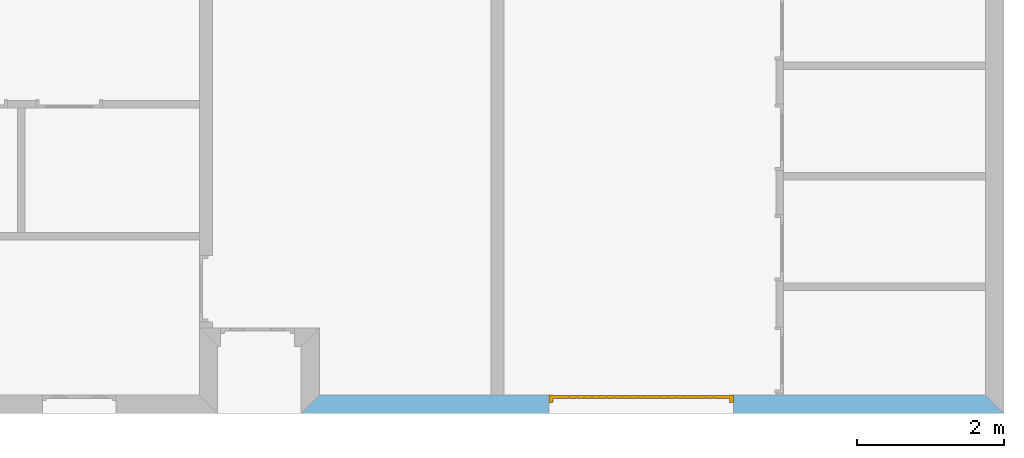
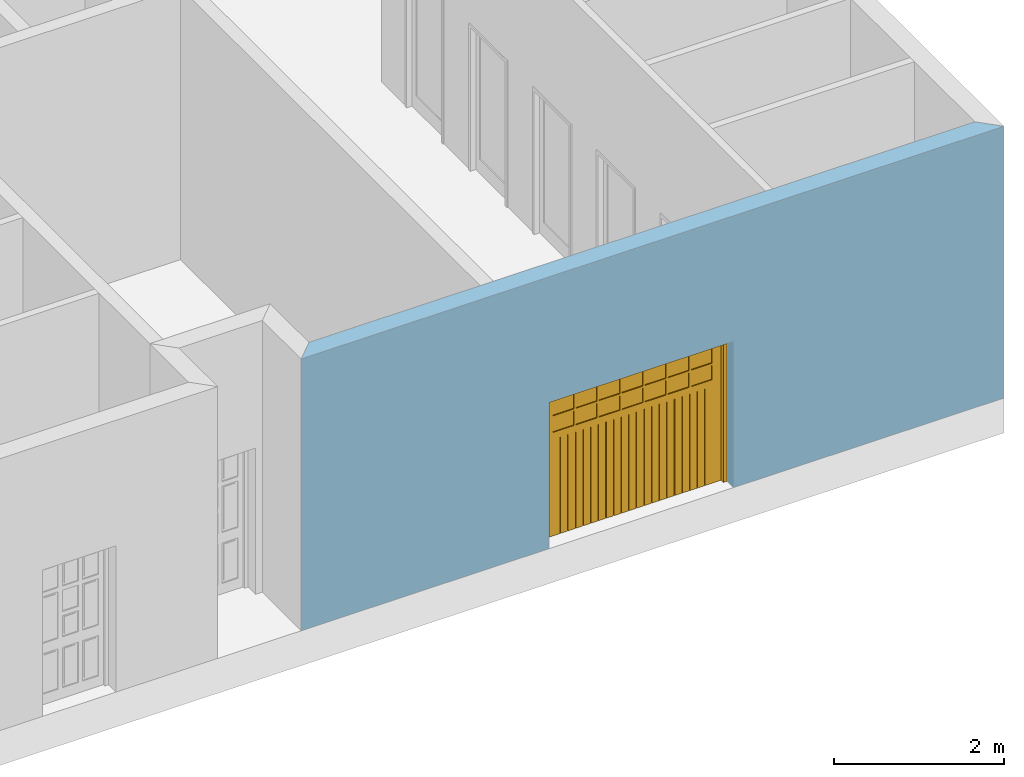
# One storey, part 5 of 5: 1 door, 1 opening, plus 1 element that does not belong to this part.
"""IFC2X3 building model written with IfcOpenShell, lengths in metres."""

from ifc_helpers import new_model, entity, si_unit, converted_unit, direction, frame, frame_2d, origin_with_axes, place, context, project, spatial, polyline, rectangle, outline, extrude, faceted_brep, material, layer, layer_set, layer_usage, type_object, element, fill, save


model = new_model("IFC2X3")

# Units and contexts
context_of_model = context(None, 3, precision=1e-05, world=origin_with_axes(), true_north=direction((6.123234e-17, 1.0)))
plan_context = context("Plan", 3, precision=1e-05, world=origin_with_axes(), true_north=direction((6.123234e-17, 1.0)))
model_context = context("Model", 3, precision=1e-05, world=origin_with_axes(), true_north=direction((6.123234e-17, 1.0)))
ifc_project = project(units=[si_unit("LENGTHUNIT", "METRE"), si_unit("AREAUNIT", "SQUARE_METRE"), si_unit("VOLUMEUNIT", "CUBIC_METRE"), converted_unit("PLANEANGLEUNIT", "DEGREE", entity("IfcPlaneAngleMeasure", 0.017453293), si_unit("PLANEANGLEUNIT", "RADIAN"), dimensions=[0, 0, 0, 0, 0, 0, 0]), si_unit("SOLIDANGLEUNIT", "STERADIAN"), si_unit("MASSUNIT", "GRAM"), si_unit("TIMEUNIT", "SECOND"), si_unit("THERMODYNAMICTEMPERATUREUNIT", "DEGREE_CELSIUS"), si_unit("LUMINOUSINTENSITYUNIT", "LUMEN")], contexts=[context_of_model, plan_context, model_context])

# Site, building, storey
site_placement = place(None, origin_with_axes())
site = spatial("IfcSite", under=ifc_project, at=site_placement, Name="Por defecto Sitio", CompositionType="ELEMENT")
building_placement = place(site_placement, origin_with_axes())
building = spatial("IfcBuilding", under=site, at=building_placement, Name="Por defecto Edificio", CompositionType="ELEMENT")
storey_placement = place(building_placement, origin_with_axes())
storey = spatial("IfcBuildingStorey", under=building, at=storey_placement, Name="Planta Baja", CompositionType="ELEMENT", Elevation=0.0)

# Wall, opening, door
ifc_material = material(Name="Ladrillo común")
ifc_layer = layer(ifc_material, 0.25, ventilated="UNKNOWN")
ifc_layer_set = layer_set([ifc_layer], Name="Ladrillo común")
ifc_layer_usage = layer_usage(ifc_layer_set, "AXIS2", "NEGATIVE", 0.0)
wall_type = type_object("IfcWallType", Name="Ladrillo común", PredefinedType="NOTDEFINED")
wall_placement = place(storey_placement, frame((16.03417, -1.1368684e-13, 0.0), z_axis=(0.0, 0.0, 1.0), x_axis=(-1.0, 1.1916904e-14, 0.0)))
wall = element("IfcWallStandardCase", 1, at=wall_placement, inside=storey, type_object=wall_type, material=ifc_layer_usage, Name="Muro-011", context=context_of_model, shape_type="SweptSolid", body=[
    extrude(outline(polyline([(0.25, -0.25), (9.2899644, -0.25), (9.5399644, 0.0), (0.0, 0.0), (0.25, -0.25)])), origin_with_axes(), (0.0, 0.0, 1.0), 3.9),
])
opening_placement = place(wall_placement, frame((4.9236983, -0.25, 0.0), z_axis=(0.0, 0.0, 1.0), x_axis=(1.0, 0.0, 0.0)))
opening = element("IfcOpeningElement", 2, at=opening_placement, cuts=wall, ObjectType="Opening", context=model_context, shape_type="SweptSolid", body=[
    extrude(rectangle(XDim=2.5, YDim=2.1, at=frame_2d((0.0, 1.05), x_axis=(-1.0, 0.0))), frame((0.0, 0.0, 0.0), z_axis=(0.0, 1.0, 0.0), x_axis=(-1.0, 0.0, 0.0)), (0.0, 0.0, 1.0), 0.25),
])
door_style = type_object("IfcDoorStyle", Name="P1 Garaje 2 12", ConstructionType="NOTDEFINED", OperationType="ROLLINGUP", ParameterTakesPrecedence=False, Sizeable=False)
door_placement = place(opening_placement, frame((1.25, 0.1, 0.0), z_axis=(0.0, 0.0, 1.0), x_axis=(-1.0, 0.0, 0.0)))
door = element("IfcDoor", 3, at=door_placement, inside=storey, type_object=door_style, Name="P10", OverallHeight=2.1, OverallWidth=2.5, context=model_context, shape_type="Brep", body=[
    faceted_brep([(0.05, 0.1, 8.9985587e-33), (0.05, 0.1, 2.05), (0.05, -7.2220008e-14, 2.05), (0.05, -7.208123e-14, -6.123234e-18), (0.0, 0.1, 9.3734986e-33), (0.0, 0.1, 2.05), (1.7763568e-15, -7.2775119e-14, 2.05), (0.0, 0.0, 0.0)], [[[0, 1, 2, 3]], [[0, 4, 5, 1]], [[1, 5, 6, 2]], [[3, 2, 6, 7]], [[4, 0, 3, 7]], [[5, 4, 7, 6]]]),
    faceted_brep([(2.5, 0.1, -9.3734986e-33), (2.5, 0.1, 2.05), (2.5, -4.3604009e-14, 2.05), (2.5, -4.3492987e-14, -6.123234e-18), (2.45, 0.1, -8.9985587e-33), (2.45, 0.1, 2.05), (2.45, -4.4186876e-14, 2.05), (2.45, -4.4075854e-14, -6.123234e-18)], [[[0, 1, 2, 3]], [[0, 4, 5, 1]], [[1, 5, 6, 2]], [[3, 2, 6, 7]], [[4, 0, 3, 7]], [[5, 4, 7, 6]]]),
    faceted_brep([(0.0, 0.1, 2.1), (0.0, 0.1, 2.05), (1.7763568e-15, -7.2775119e-14, 2.05), (1.7763568e-15, -7.2775119e-14, 2.1), (2.5, 0.1, 2.1), (2.5, 0.1, 2.05), (2.45, 0.1, 2.05), (0.05, 0.1, 2.05), (0.05, -7.2220008e-14, 2.05), (2.45, -4.4186876e-14, 2.05), (2.5, -4.3604009e-14, 2.05), (2.5, -4.3604009e-14, 2.1)], [[[0, 1, 2, 3]], [[0, 4, 5, 6, 7, 1]], [[1, 7, 8, 2]], [[3, 2, 8, 9, 10, 11]], [[4, 0, 3, 11]], [[5, 4, 11, 10]], [[6, 5, 10, 9]], [[7, 6, 9, 8]]]),
    faceted_brep([(0.17, 0.0545, -2.7860715e-18), (0.17, 0.067833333, -1.9696403e-18), (0.17, 0.067833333, 1.484), (0.17, 0.0545, 1.484), (0.05, 0.0545, -2.7860715e-18), (0.05, 0.067833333, -1.9696403e-18), (0.05, 0.067833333, 1.93), (0.17, 0.067833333, 1.93), (0.17, 0.067833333, 1.722), (0.17, 0.067833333, 1.692), (0.17, 0.0545, 1.692), (0.17, 0.0545, 1.722), (0.17, 0.0545, 1.93), (0.05, 0.0545, 1.93)], [[[0, 1, 2, 3]], [[4, 5, 1, 0]], [[1, 5, 6, 7, 8, 9, 2]], [[3, 2, 9, 10]], [[0, 3, 10, 11, 12, 13, 4]], [[13, 6, 5, 4]], [[12, 7, 6, 13]], [[11, 8, 7, 12]], [[10, 9, 8, 11]]]),
    faceted_brep([(2.45, 0.0545, -2.7860715e-18), (2.45, 0.067833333, -1.9696403e-18), (2.45, 0.067833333, 1.93), (2.45, 0.0545, 1.93), (2.33, 0.0545, -2.7860715e-18), (2.33, 0.067833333, -1.9696403e-18), (2.33, 0.067833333, 1.484), (2.33, 0.067833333, 1.692), (2.33, 0.067833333, 1.722), (2.33, 0.067833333, 1.93), (2.33, 0.0545, 1.93), (2.33, 0.0545, 1.722), (2.33, 0.0545, 1.692), (2.33, 0.0545, 1.484)], [[[0, 1, 2, 3]], [[4, 5, 1, 0]], [[1, 5, 6, 7, 8, 9, 2]], [[3, 2, 9, 10]], [[0, 3, 10, 11, 12, 13, 4]], [[13, 6, 5, 4]], [[12, 7, 6, 13]], [[11, 8, 7, 12]], [[10, 9, 8, 11]]]),
    faceted_brep([(0.05, 0.0545, 2.05), (0.05, 0.067833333, 2.05), (0.05, 0.067833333, 1.93), (0.05, 0.0545, 1.93), (2.45, 0.0545, 2.05), (2.45, 0.067833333, 2.05), (2.45, 0.067833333, 1.93), (2.33, 0.067833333, 1.93), (2.0471429, 0.067833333, 1.93), (2.0171429, 0.067833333, 1.93), (1.7342857, 0.067833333, 1.93), (1.7042857, 0.067833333, 1.93), (1.4214286, 0.067833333, 1.93), (1.3914286, 0.067833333, 1.93), (1.1085714, 0.067833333, 1.93), (1.0785714, 0.067833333, 1.93), (0.79571429, 0.067833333, 1.93), (0.76571429, 0.067833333, 1.93), (0.48285714, 0.067833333, 1.93), (0.45285714, 0.067833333, 1.93), (0.17, 0.067833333, 1.93), (0.17, 0.0545, 1.93), (0.45285714, 0.0545, 1.93), (0.48285714, 0.0545, 1.93), (0.76571429, 0.0545, 1.93), (0.79571429, 0.0545, 1.93), (1.0785714, 0.0545, 1.93), (1.1085714, 0.0545, 1.93), (1.3914286, 0.0545, 1.93), (1.4214286, 0.0545, 1.93), (1.7042857, 0.0545, 1.93), (1.7342857, 0.0545, 1.93), (2.0171429, 0.0545, 1.93), (2.0471429, 0.0545, 1.93), (2.33, 0.0545, 1.93), (2.45, 0.0545, 1.93)], [[[0, 1, 2, 3]], [[4, 5, 1, 0]], [[1, 5, 6, 7, 8, 9, 10, 11, 12, 13, 14, 15, 16, 17, 18, 19, 20, 2]], [[3, 2, 20, 21]], [[0, 3, 21, 22, 23, 24, 25, 26, 27, 28, 29, 30, 31, 32, 33, 34, 35, 4]], [[35, 6, 5, 4]], [[34, 7, 6, 35]], [[33, 8, 7, 34]], [[32, 9, 8, 33]], [[31, 10, 9, 32]], [[30, 11, 10, 31]], [[29, 12, 11, 30]], [[28, 13, 12, 29]], [[27, 14, 13, 28]], [[26, 15, 14, 27]], [[25, 16, 15, 26]], [[24, 17, 16, 25]], [[23, 18, 17, 24]], [[22, 19, 18, 23]], [[21, 20, 19, 22]]]),
    faceted_brep([(2.33, 0.0545, 1.384), (2.33, 0.067833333, 1.384), (2.33, 0.067833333, 1.484), (2.33, 0.0545, 1.484), (0.17, 0.0545, 1.384), (0.17, 0.067833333, 1.384), (0.17, 0.067833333, 1.484), (0.45285714, 0.067833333, 1.484), (0.48285714, 0.067833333, 1.484), (0.76571429, 0.067833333, 1.484), (0.79571429, 0.067833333, 1.484), (1.0785714, 0.067833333, 1.484), (1.1085714, 0.067833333, 1.484), (1.3914286, 0.067833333, 1.484), (1.4214286, 0.067833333, 1.484), (1.7042857, 0.067833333, 1.484), (1.7342857, 0.067833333, 1.484), (2.0171429, 0.067833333, 1.484), (2.0471429, 0.067833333, 1.484), (2.0471429, 0.0545, 1.484), (2.0171429, 0.0545, 1.484), (1.7342857, 0.0545, 1.484), (1.7042857, 0.0545, 1.484), (1.4214286, 0.0545, 1.484), (1.3914286, 0.0545, 1.484), (1.1085714, 0.0545, 1.484), (1.0785714, 0.0545, 1.484), (0.79571429, 0.0545, 1.484), (0.76571429, 0.0545, 1.484), (0.48285714, 0.0545, 1.484), (0.45285714, 0.0545, 1.484), (0.17, 0.0545, 1.484)], [[[0, 1, 2, 3]], [[4, 5, 1, 0]], [[1, 5, 6, 7, 8, 9, 10, 11, 12, 13, 14, 15, 16, 17, 18, 2]], [[3, 2, 18, 19]], [[0, 3, 19, 20, 21, 22, 23, 24, 25, 26, 27, 28, 29, 30, 31, 4]], [[31, 6, 5, 4]], [[30, 7, 6, 31]], [[29, 8, 7, 30]], [[28, 9, 8, 29]], [[27, 10, 9, 28]], [[26, 11, 10, 27]], [[25, 12, 11, 26]], [[24, 13, 12, 25]], [[23, 14, 13, 24]], [[22, 15, 14, 23]], [[21, 16, 15, 22]], [[20, 17, 16, 21]], [[19, 18, 17, 20]]]),
    faceted_brep([(0.17, 0.0545, 1.692), (0.17, 0.0925, 1.692), (0.45285714, 0.0925, 1.692), (0.45285714, 0.0545, 1.692), (0.17, 0.0545, 1.722), (0.17, 0.0925, 1.722), (0.45285714, 0.0925, 1.722), (0.48285714, 0.0925, 1.722), (0.76571429, 0.0925, 1.722), (0.79571429, 0.0925, 1.722), (1.0785714, 0.0925, 1.722), (1.1085714, 0.0925, 1.722), (1.3914286, 0.0925, 1.722), (1.4214286, 0.0925, 1.722), (1.7042857, 0.0925, 1.722), (1.7342857, 0.0925, 1.722), (2.0171429, 0.0925, 1.722), (2.0471429, 0.0925, 1.722), (2.33, 0.0925, 1.722), (2.33, 0.0925, 1.692), (2.0471429, 0.0925, 1.692), (2.0171429, 0.0925, 1.692), (1.7342857, 0.0925, 1.692), (1.7042857, 0.0925, 1.692), (1.4214286, 0.0925, 1.692), (1.3914286, 0.0925, 1.692), (1.1085714, 0.0925, 1.692), (1.0785714, 0.0925, 1.692), (0.79571429, 0.0925, 1.692), (0.76571429, 0.0925, 1.692), (0.48285714, 0.0925, 1.692), (0.48285714, 0.0545, 1.692), (0.76571429, 0.0545, 1.692), (0.79571429, 0.0545, 1.692), (1.0785714, 0.0545, 1.692), (1.1085714, 0.0545, 1.692), (1.3914286, 0.0545, 1.692), (1.4214286, 0.0545, 1.692), (1.7042857, 0.0545, 1.692), (1.7342857, 0.0545, 1.692), (2.0171429, 0.0545, 1.692), (2.0471429, 0.0545, 1.692), (2.33, 0.0545, 1.692), (2.33, 0.0545, 1.722), (2.0471429, 0.0545, 1.722), (2.0171429, 0.0545, 1.722), (1.7342857, 0.0545, 1.722), (1.7042857, 0.0545, 1.722), (1.4214286, 0.0545, 1.722), (1.3914286, 0.0545, 1.722), (1.1085714, 0.0545, 1.722), (1.0785714, 0.0545, 1.722), (0.79571429, 0.0545, 1.722), (0.76571429, 0.0545, 1.722), (0.48285714, 0.0545, 1.722), (0.45285714, 0.0545, 1.722)], [[[0, 1, 2, 3]], [[4, 5, 1, 0]], [[1, 5, 6, 7, 8, 9, 10, 11, 12, 13, 14, 15, 16, 17, 18, 19, 20, 21, 22, 23, 24, 25, 26, 27, 28, 29, 30, 2]], [[3, 2, 30, 31]], [[0, 3, 31, 32, 33, 34, 35, 36, 37, 38, 39, 40, 41, 42, 43, 44, 45, 46, 47, 48, 49, 50, 51, 52, 53, 54, 55, 4]], [[55, 6, 5, 4]], [[54, 7, 6, 55]], [[53, 8, 7, 54]], [[52, 9, 8, 53]], [[51, 10, 9, 52]], [[50, 11, 10, 51]], [[49, 12, 11, 50]], [[48, 13, 12, 49]], [[47, 14, 13, 48]], [[46, 15, 14, 47]], [[45, 16, 15, 46]], [[44, 17, 16, 45]], [[43, 18, 17, 44]], [[42, 19, 18, 43]], [[41, 20, 19, 42]], [[40, 21, 20, 41]], [[39, 22, 21, 40]], [[38, 23, 22, 39]], [[37, 24, 23, 38]], [[36, 25, 24, 37]], [[35, 26, 25, 36]], [[34, 27, 26, 35]], [[33, 28, 27, 34]], [[32, 29, 28, 33]], [[31, 30, 29, 32]]]),
    faceted_brep([(0.48285714, 0.0545, 1.484), (0.48285714, 0.0925, 1.484), (0.48285714, 0.0925, 1.692), (0.48285714, 0.0545, 1.692), (0.45285714, 0.0545, 1.484), (0.45285714, 0.0925, 1.484), (0.45285714, 0.0925, 1.692), (0.45285714, 0.0545, 1.692)], [[[0, 1, 2, 3]], [[4, 5, 1, 0]], [[1, 5, 6, 2]], [[3, 2, 6, 7]], [[0, 3, 7, 4]], [[7, 6, 5, 4]]]),
    faceted_brep([(0.48285714, 0.0545, 1.722), (0.48285714, 0.0925, 1.722), (0.48285714, 0.0925, 1.93), (0.48285714, 0.0545, 1.93), (0.45285714, 0.0545, 1.722), (0.45285714, 0.0925, 1.722), (0.45285714, 0.0925, 1.93), (0.45285714, 0.0545, 1.93)], [[[0, 1, 2, 3]], [[4, 5, 1, 0]], [[1, 5, 6, 2]], [[3, 2, 6, 7]], [[0, 3, 7, 4]], [[7, 6, 5, 4]]]),
    faceted_brep([(0.79571429, 0.0545, 1.484), (0.79571429, 0.0925, 1.484), (0.79571429, 0.0925, 1.692), (0.79571429, 0.0545, 1.692), (0.76571429, 0.0545, 1.484), (0.76571429, 0.0925, 1.484), (0.76571429, 0.0925, 1.692), (0.76571429, 0.0545, 1.692)], [[[0, 1, 2, 3]], [[4, 5, 1, 0]], [[1, 5, 6, 2]], [[3, 2, 6, 7]], [[0, 3, 7, 4]], [[7, 6, 5, 4]]]),
    faceted_brep([(0.79571429, 0.0545, 1.722), (0.79571429, 0.0925, 1.722), (0.79571429, 0.0925, 1.93), (0.79571429, 0.0545, 1.93), (0.76571429, 0.0545, 1.722), (0.76571429, 0.0925, 1.722), (0.76571429, 0.0925, 1.93), (0.76571429, 0.0545, 1.93)], [[[0, 1, 2, 3]], [[4, 5, 1, 0]], [[1, 5, 6, 2]], [[3, 2, 6, 7]], [[0, 3, 7, 4]], [[7, 6, 5, 4]]]),
    faceted_brep([(1.1085714, 0.0545, 1.484), (1.1085714, 0.0925, 1.484), (1.1085714, 0.0925, 1.692), (1.1085714, 0.0545, 1.692), (1.0785714, 0.0545, 1.484), (1.0785714, 0.0925, 1.484), (1.0785714, 0.0925, 1.692), (1.0785714, 0.0545, 1.692)], [[[0, 1, 2, 3]], [[4, 5, 1, 0]], [[1, 5, 6, 2]], [[3, 2, 6, 7]], [[0, 3, 7, 4]], [[7, 6, 5, 4]]]),
    faceted_brep([(1.1085714, 0.0545, 1.722), (1.1085714, 0.0925, 1.722), (1.1085714, 0.0925, 1.93), (1.1085714, 0.0545, 1.93), (1.0785714, 0.0545, 1.722), (1.0785714, 0.0925, 1.722), (1.0785714, 0.0925, 1.93), (1.0785714, 0.0545, 1.93)], [[[0, 1, 2, 3]], [[4, 5, 1, 0]], [[1, 5, 6, 2]], [[3, 2, 6, 7]], [[0, 3, 7, 4]], [[7, 6, 5, 4]]]),
    faceted_brep([(1.4214286, 0.0545, 1.484), (1.4214286, 0.0925, 1.484), (1.4214286, 0.0925, 1.692), (1.4214286, 0.0545, 1.692), (1.3914286, 0.0545, 1.484), (1.3914286, 0.0925, 1.484), (1.3914286, 0.0925, 1.692), (1.3914286, 0.0545, 1.692)], [[[0, 1, 2, 3]], [[4, 5, 1, 0]], [[1, 5, 6, 2]], [[3, 2, 6, 7]], [[0, 3, 7, 4]], [[7, 6, 5, 4]]]),
    faceted_brep([(1.4214286, 0.0545, 1.722), (1.4214286, 0.0925, 1.722), (1.4214286, 0.0925, 1.93), (1.4214286, 0.0545, 1.93), (1.3914286, 0.0545, 1.722), (1.3914286, 0.0925, 1.722), (1.3914286, 0.0925, 1.93), (1.3914286, 0.0545, 1.93)], [[[0, 1, 2, 3]], [[4, 5, 1, 0]], [[1, 5, 6, 2]], [[3, 2, 6, 7]], [[0, 3, 7, 4]], [[7, 6, 5, 4]]]),
    faceted_brep([(1.7342857, 0.0545, 1.484), (1.7342857, 0.0925, 1.484), (1.7342857, 0.0925, 1.692), (1.7342857, 0.0545, 1.692), (1.7042857, 0.0545, 1.484), (1.7042857, 0.0925, 1.484), (1.7042857, 0.0925, 1.692), (1.7042857, 0.0545, 1.692)], [[[0, 1, 2, 3]], [[4, 5, 1, 0]], [[1, 5, 6, 2]], [[3, 2, 6, 7]], [[0, 3, 7, 4]], [[7, 6, 5, 4]]]),
    faceted_brep([(1.7342857, 0.0545, 1.722), (1.7342857, 0.0925, 1.722), (1.7342857, 0.0925, 1.93), (1.7342857, 0.0545, 1.93), (1.7042857, 0.0545, 1.722), (1.7042857, 0.0925, 1.722), (1.7042857, 0.0925, 1.93), (1.7042857, 0.0545, 1.93)], [[[0, 1, 2, 3]], [[4, 5, 1, 0]], [[1, 5, 6, 2]], [[3, 2, 6, 7]], [[0, 3, 7, 4]], [[7, 6, 5, 4]]]),
    faceted_brep([(2.0471429, 0.0545, 1.484), (2.0471429, 0.0925, 1.484), (2.0471429, 0.0925, 1.692), (2.0471429, 0.0545, 1.692), (2.0171429, 0.0545, 1.484), (2.0171429, 0.0925, 1.484), (2.0171429, 0.0925, 1.692), (2.0171429, 0.0545, 1.692)], [[[0, 1, 2, 3]], [[4, 5, 1, 0]], [[1, 5, 6, 2]], [[3, 2, 6, 7]], [[0, 3, 7, 4]], [[7, 6, 5, 4]]]),
    faceted_brep([(2.0471429, 0.0545, 1.722), (2.0471429, 0.0925, 1.722), (2.0471429, 0.0925, 1.93), (2.0471429, 0.0545, 1.93), (2.0171429, 0.0545, 1.722), (2.0171429, 0.0925, 1.722), (2.0171429, 0.0925, 1.93), (2.0171429, 0.0545, 1.93)], [[[0, 1, 2, 3]], [[4, 5, 1, 0]], [[1, 5, 6, 2]], [[3, 2, 6, 7]], [[0, 3, 7, 4]], [[7, 6, 5, 4]]]),
    faceted_brep([(0.17, 0.0545, -2.7860715e-18), (0.17, 0.067833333, -1.9696403e-18), (0.26333333, 0.067833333, -1.9696403e-18), (0.26333333, 0.0545, -2.7860715e-18), (0.17, 0.0545, 1.384), (0.17, 0.067833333, 1.384), (0.26333333, 0.067833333, 1.384), (0.26333333, 0.0545, 1.384)], [[[0, 1, 2, 3]], [[4, 5, 1, 0]], [[1, 5, 6, 2]], [[3, 2, 6, 7]], [[0, 3, 7, 4]], [[7, 6, 5, 4]]]),
    faceted_brep([(0.27333333, 0.0545, -2.7860715e-18), (0.27333333, 0.067833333, -1.9696403e-18), (0.36666667, 0.067833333, -1.9696403e-18), (0.36666667, 0.0545, -2.7860715e-18), (0.27333333, 0.0545, 1.384), (0.27333333, 0.067833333, 1.384), (0.36666667, 0.067833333, 1.384), (0.36666667, 0.0545, 1.384)], [[[0, 1, 2, 3]], [[4, 5, 1, 0]], [[1, 5, 6, 2]], [[3, 2, 6, 7]], [[0, 3, 7, 4]], [[7, 6, 5, 4]]]),
    faceted_brep([(0.37666667, 0.0545, -2.7860715e-18), (0.37666667, 0.067833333, -1.9696403e-18), (0.47, 0.067833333, -1.9696403e-18), (0.47, 0.0545, -2.7860715e-18), (0.37666667, 0.0545, 1.384), (0.37666667, 0.067833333, 1.384), (0.47, 0.067833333, 1.384), (0.47, 0.0545, 1.384)], [[[0, 1, 2, 3]], [[4, 5, 1, 0]], [[1, 5, 6, 2]], [[3, 2, 6, 7]], [[0, 3, 7, 4]], [[7, 6, 5, 4]]]),
    faceted_brep([(0.48, 0.0545, -2.7860715e-18), (0.48, 0.067833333, -1.9696403e-18), (0.57333333, 0.067833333, -1.9696403e-18), (0.57333333, 0.0545, -2.7860715e-18), (0.48, 0.0545, 1.384), (0.48, 0.067833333, 1.384), (0.57333333, 0.067833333, 1.384), (0.57333333, 0.0545, 1.384)], [[[0, 1, 2, 3]], [[4, 5, 1, 0]], [[1, 5, 6, 2]], [[3, 2, 6, 7]], [[0, 3, 7, 4]], [[7, 6, 5, 4]]]),
    faceted_brep([(0.58333333, 0.0545, -2.7860715e-18), (0.58333333, 0.067833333, -1.9696403e-18), (0.67666667, 0.067833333, -1.9696403e-18), (0.67666667, 0.0545, -2.7860715e-18), (0.58333333, 0.0545, 1.384), (0.58333333, 0.067833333, 1.384), (0.67666667, 0.067833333, 1.384), (0.67666667, 0.0545, 1.384)], [[[0, 1, 2, 3]], [[4, 5, 1, 0]], [[1, 5, 6, 2]], [[3, 2, 6, 7]], [[0, 3, 7, 4]], [[7, 6, 5, 4]]]),
    faceted_brep([(0.68666667, 0.0545, -2.7860715e-18), (0.68666667, 0.067833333, -1.9696403e-18), (0.78, 0.067833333, -1.9696403e-18), (0.78, 0.0545, -2.7860715e-18), (0.68666667, 0.0545, 1.384), (0.68666667, 0.067833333, 1.384), (0.78, 0.067833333, 1.384), (0.78, 0.0545, 1.384)], [[[0, 1, 2, 3]], [[4, 5, 1, 0]], [[1, 5, 6, 2]], [[3, 2, 6, 7]], [[0, 3, 7, 4]], [[7, 6, 5, 4]]]),
    faceted_brep([(0.79, 0.0545, -2.7860715e-18), (0.79, 0.067833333, -1.9696403e-18), (0.88333333, 0.067833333, -1.9696403e-18), (0.88333333, 0.0545, -2.7860715e-18), (0.79, 0.0545, 1.384), (0.79, 0.067833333, 1.384), (0.88333333, 0.067833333, 1.384), (0.88333333, 0.0545, 1.384)], [[[0, 1, 2, 3]], [[4, 5, 1, 0]], [[1, 5, 6, 2]], [[3, 2, 6, 7]], [[0, 3, 7, 4]], [[7, 6, 5, 4]]]),
    faceted_brep([(0.89333333, 0.0545, -2.7860715e-18), (0.89333333, 0.067833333, -1.9696403e-18), (0.98666667, 0.067833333, -1.9696403e-18), (0.98666667, 0.0545, -2.7860715e-18), (0.89333333, 0.0545, 1.384), (0.89333333, 0.067833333, 1.384), (0.98666667, 0.067833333, 1.384), (0.98666667, 0.0545, 1.384)], [[[0, 1, 2, 3]], [[4, 5, 1, 0]], [[1, 5, 6, 2]], [[3, 2, 6, 7]], [[0, 3, 7, 4]], [[7, 6, 5, 4]]]),
    faceted_brep([(0.99666667, 0.0545, -2.7860715e-18), (0.99666667, 0.067833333, -1.9696403e-18), (1.09, 0.067833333, -1.9696403e-18), (1.09, 0.0545, -2.7860715e-18), (0.99666667, 0.0545, 1.384), (0.99666667, 0.067833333, 1.384), (1.09, 0.067833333, 1.384), (1.09, 0.0545, 1.384)], [[[0, 1, 2, 3]], [[4, 5, 1, 0]], [[1, 5, 6, 2]], [[3, 2, 6, 7]], [[0, 3, 7, 4]], [[7, 6, 5, 4]]]),
    faceted_brep([(1.1, 0.0545, -2.7860715e-18), (1.1, 0.067833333, -1.9696403e-18), (1.1933333, 0.067833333, -1.9696403e-18), (1.1933333, 0.0545, -2.7860715e-18), (1.1, 0.0545, 1.384), (1.1, 0.067833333, 1.384), (1.1933333, 0.067833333, 1.384), (1.1933333, 0.0545, 1.384)], [[[0, 1, 2, 3]], [[4, 5, 1, 0]], [[1, 5, 6, 2]], [[3, 2, 6, 7]], [[0, 3, 7, 4]], [[7, 6, 5, 4]]]),
    faceted_brep([(1.2033333, 0.0545, -2.7860715e-18), (1.2033333, 0.067833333, -1.9696403e-18), (1.2966667, 0.067833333, -1.9696403e-18), (1.2966667, 0.0545, -2.7860715e-18), (1.2033333, 0.0545, 1.384), (1.2033333, 0.067833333, 1.384), (1.2966667, 0.067833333, 1.384), (1.2966667, 0.0545, 1.384)], [[[0, 1, 2, 3]], [[4, 5, 1, 0]], [[1, 5, 6, 2]], [[3, 2, 6, 7]], [[0, 3, 7, 4]], [[7, 6, 5, 4]]]),
    faceted_brep([(1.3066667, 0.0545, -2.7860715e-18), (1.3066667, 0.067833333, -1.9696403e-18), (1.4, 0.067833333, -1.9696403e-18), (1.4, 0.0545, -2.7860715e-18), (1.3066667, 0.0545, 1.384), (1.3066667, 0.067833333, 1.384), (1.4, 0.067833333, 1.384), (1.4, 0.0545, 1.384)], [[[0, 1, 2, 3]], [[4, 5, 1, 0]], [[1, 5, 6, 2]], [[3, 2, 6, 7]], [[0, 3, 7, 4]], [[7, 6, 5, 4]]]),
    faceted_brep([(1.41, 0.0545, -2.7860715e-18), (1.41, 0.067833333, -1.9696403e-18), (1.5033333, 0.067833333, -1.9696403e-18), (1.5033333, 0.0545, -2.7860715e-18), (1.41, 0.0545, 1.384), (1.41, 0.067833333, 1.384), (1.5033333, 0.067833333, 1.384), (1.5033333, 0.0545, 1.384)], [[[0, 1, 2, 3]], [[4, 5, 1, 0]], [[1, 5, 6, 2]], [[3, 2, 6, 7]], [[0, 3, 7, 4]], [[7, 6, 5, 4]]]),
    faceted_brep([(1.5133333, 0.0545, -2.7860715e-18), (1.5133333, 0.067833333, -1.9696403e-18), (1.6066667, 0.067833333, -1.9696403e-18), (1.6066667, 0.0545, -2.7860715e-18), (1.5133333, 0.0545, 1.384), (1.5133333, 0.067833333, 1.384), (1.6066667, 0.067833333, 1.384), (1.6066667, 0.0545, 1.384)], [[[0, 1, 2, 3]], [[4, 5, 1, 0]], [[1, 5, 6, 2]], [[3, 2, 6, 7]], [[0, 3, 7, 4]], [[7, 6, 5, 4]]]),
    faceted_brep([(1.6166667, 0.0545, -2.7860715e-18), (1.6166667, 0.067833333, -1.9696403e-18), (1.71, 0.067833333, -1.9696403e-18), (1.71, 0.0545, -2.7860715e-18), (1.6166667, 0.0545, 1.384), (1.6166667, 0.067833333, 1.384), (1.71, 0.067833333, 1.384), (1.71, 0.0545, 1.384)], [[[0, 1, 2, 3]], [[4, 5, 1, 0]], [[1, 5, 6, 2]], [[3, 2, 6, 7]], [[0, 3, 7, 4]], [[7, 6, 5, 4]]]),
    faceted_brep([(1.72, 0.0545, -2.7860715e-18), (1.72, 0.067833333, -1.9696403e-18), (1.8133333, 0.067833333, -1.9696403e-18), (1.8133333, 0.0545, -2.7860715e-18), (1.72, 0.0545, 1.384), (1.72, 0.067833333, 1.384), (1.8133333, 0.067833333, 1.384), (1.8133333, 0.0545, 1.384)], [[[0, 1, 2, 3]], [[4, 5, 1, 0]], [[1, 5, 6, 2]], [[3, 2, 6, 7]], [[0, 3, 7, 4]], [[7, 6, 5, 4]]]),
    faceted_brep([(1.8233333, 0.0545, -2.7860715e-18), (1.8233333, 0.067833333, -1.9696403e-18), (1.9166667, 0.067833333, -1.9696403e-18), (1.9166667, 0.0545, -2.7860715e-18), (1.8233333, 0.0545, 1.384), (1.8233333, 0.067833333, 1.384), (1.9166667, 0.067833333, 1.384), (1.9166667, 0.0545, 1.384)], [[[0, 1, 2, 3]], [[4, 5, 1, 0]], [[1, 5, 6, 2]], [[3, 2, 6, 7]], [[0, 3, 7, 4]], [[7, 6, 5, 4]]]),
    faceted_brep([(1.9266667, 0.0545, -2.7860715e-18), (1.9266667, 0.067833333, -1.9696403e-18), (2.02, 0.067833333, -1.9696403e-18), (2.02, 0.0545, -2.7860715e-18), (1.9266667, 0.0545, 1.384), (1.9266667, 0.067833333, 1.384), (2.02, 0.067833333, 1.384), (2.02, 0.0545, 1.384)], [[[0, 1, 2, 3]], [[4, 5, 1, 0]], [[1, 5, 6, 2]], [[3, 2, 6, 7]], [[0, 3, 7, 4]], [[7, 6, 5, 4]]]),
    faceted_brep([(2.03, 0.0545, -2.7860715e-18), (2.03, 0.067833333, -1.9696403e-18), (2.1233333, 0.067833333, -1.9696403e-18), (2.1233333, 0.0545, -2.7860715e-18), (2.03, 0.0545, 1.384), (2.03, 0.067833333, 1.384), (2.1233333, 0.067833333, 1.384), (2.1233333, 0.0545, 1.384)], [[[0, 1, 2, 3]], [[4, 5, 1, 0]], [[1, 5, 6, 2]], [[3, 2, 6, 7]], [[0, 3, 7, 4]], [[7, 6, 5, 4]]]),
    faceted_brep([(2.1333333, 0.0545, -2.7860715e-18), (2.1333333, 0.067833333, -1.9696403e-18), (2.2266667, 0.067833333, -1.9696403e-18), (2.2266667, 0.0545, -2.7860715e-18), (2.1333333, 0.0545, 1.384), (2.1333333, 0.067833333, 1.384), (2.2266667, 0.067833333, 1.384), (2.2266667, 0.0545, 1.384)], [[[0, 1, 2, 3]], [[4, 5, 1, 0]], [[1, 5, 6, 2]], [[3, 2, 6, 7]], [[0, 3, 7, 4]], [[7, 6, 5, 4]]]),
    faceted_brep([(2.2366667, 0.0545, -2.7860715e-18), (2.2366667, 0.067833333, -1.9696403e-18), (2.33, 0.067833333, -1.9696403e-18), (2.33, 0.0545, -2.7860715e-18), (2.2366667, 0.0545, 1.384), (2.2366667, 0.067833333, 1.384), (2.33, 0.067833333, 1.384), (2.33, 0.0545, 1.384)], [[[0, 1, 2, 3]], [[4, 5, 1, 0]], [[1, 5, 6, 2]], [[3, 2, 6, 7]], [[0, 3, 7, 4]], [[7, 6, 5, 4]]]),
    faceted_brep([(0.05, 0.067833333, -1.9696403e-18), (0.05, 0.0945, -3.3677787e-19), (2.45, 0.0945, -3.3677787e-19), (2.45, 0.067833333, -1.9696403e-18), (0.05, 0.067833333, 2.05), (0.05, 0.0945, 2.05), (2.45, 0.0945, 2.05), (0.17, 0.0945, 1.93), (0.17, 0.0945, 1.484), (2.33, 0.0945, 1.484), (2.33, 0.0945, 1.93), (2.45, 0.067833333, 2.05), (0.17, 0.067833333, 1.93), (2.33, 0.067833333, 1.93), (2.33, 0.067833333, 1.484), (0.17, 0.067833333, 1.484)], [[[0, 1, 2, 3]], [[4, 5, 1, 0]], [[1, 5, 6, 2], [7, 8, 9, 10]], [[3, 2, 6, 11]], [[0, 3, 11, 4], [12, 13, 14, 15]], [[11, 6, 5, 4]], [[15, 8, 7, 12]], [[14, 9, 8, 15]], [[13, 10, 9, 14]], [[12, 7, 10, 13]]]),
    faceted_brep([(0.17, 0.067833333, 1.484), (0.17, 0.077833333, 1.484), (0.45285714, 0.077833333, 1.484), (0.45285714, 0.067833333, 1.484), (0.17, 0.067833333, 1.692), (0.17, 0.077833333, 1.692), (0.45285714, 0.077833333, 1.692), (0.45285714, 0.067833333, 1.692)], [[[0, 1, 2, 3]], [[4, 5, 1, 0]], [[1, 5, 6, 2]], [[3, 2, 6, 7]], [[0, 3, 7, 4]], [[7, 6, 5, 4]]]),
    faceted_brep([(0.48285714, 0.067833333, 1.484), (0.48285714, 0.077833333, 1.484), (0.76571429, 0.077833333, 1.484), (0.76571429, 0.067833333, 1.484), (0.48285714, 0.067833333, 1.692), (0.48285714, 0.077833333, 1.692), (0.76571429, 0.077833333, 1.692), (0.76571429, 0.067833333, 1.692)], [[[0, 1, 2, 3]], [[4, 5, 1, 0]], [[1, 5, 6, 2]], [[3, 2, 6, 7]], [[0, 3, 7, 4]], [[7, 6, 5, 4]]]),
    faceted_brep([(0.79571429, 0.067833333, 1.484), (0.79571429, 0.077833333, 1.484), (1.0785714, 0.077833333, 1.484), (1.0785714, 0.067833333, 1.484), (0.79571429, 0.067833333, 1.692), (0.79571429, 0.077833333, 1.692), (1.0785714, 0.077833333, 1.692), (1.0785714, 0.067833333, 1.692)], [[[0, 1, 2, 3]], [[4, 5, 1, 0]], [[1, 5, 6, 2]], [[3, 2, 6, 7]], [[0, 3, 7, 4]], [[7, 6, 5, 4]]]),
    faceted_brep([(1.1085714, 0.067833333, 1.484), (1.1085714, 0.077833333, 1.484), (1.3914286, 0.077833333, 1.484), (1.3914286, 0.067833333, 1.484), (1.1085714, 0.067833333, 1.692), (1.1085714, 0.077833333, 1.692), (1.3914286, 0.077833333, 1.692), (1.3914286, 0.067833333, 1.692)], [[[0, 1, 2, 3]], [[4, 5, 1, 0]], [[1, 5, 6, 2]], [[3, 2, 6, 7]], [[0, 3, 7, 4]], [[7, 6, 5, 4]]]),
    faceted_brep([(1.4214286, 0.067833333, 1.484), (1.4214286, 0.077833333, 1.484), (1.7042857, 0.077833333, 1.484), (1.7042857, 0.067833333, 1.484), (1.4214286, 0.067833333, 1.692), (1.4214286, 0.077833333, 1.692), (1.7042857, 0.077833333, 1.692), (1.7042857, 0.067833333, 1.692)], [[[0, 1, 2, 3]], [[4, 5, 1, 0]], [[1, 5, 6, 2]], [[3, 2, 6, 7]], [[0, 3, 7, 4]], [[7, 6, 5, 4]]]),
    faceted_brep([(1.7342857, 0.067833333, 1.484), (1.7342857, 0.077833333, 1.484), (2.0171429, 0.077833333, 1.484), (2.0171429, 0.067833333, 1.484), (1.7342857, 0.067833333, 1.692), (1.7342857, 0.077833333, 1.692), (2.0171429, 0.077833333, 1.692), (2.0171429, 0.067833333, 1.692)], [[[0, 1, 2, 3]], [[4, 5, 1, 0]], [[1, 5, 6, 2]], [[3, 2, 6, 7]], [[0, 3, 7, 4]], [[7, 6, 5, 4]]]),
    faceted_brep([(2.0471429, 0.067833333, 1.484), (2.0471429, 0.077833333, 1.484), (2.33, 0.077833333, 1.484), (2.33, 0.067833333, 1.484), (2.0471429, 0.067833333, 1.692), (2.0471429, 0.077833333, 1.692), (2.33, 0.077833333, 1.692), (2.33, 0.067833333, 1.692)], [[[0, 1, 2, 3]], [[4, 5, 1, 0]], [[1, 5, 6, 2]], [[3, 2, 6, 7]], [[0, 3, 7, 4]], [[7, 6, 5, 4]]]),
    faceted_brep([(0.17, 0.067833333, 1.722), (0.17, 0.077833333, 1.722), (0.45285714, 0.077833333, 1.722), (0.45285714, 0.067833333, 1.722), (0.17, 0.067833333, 1.93), (0.17, 0.077833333, 1.93), (0.45285714, 0.077833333, 1.93), (0.45285714, 0.067833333, 1.93)], [[[0, 1, 2, 3]], [[4, 5, 1, 0]], [[1, 5, 6, 2]], [[3, 2, 6, 7]], [[0, 3, 7, 4]], [[7, 6, 5, 4]]]),
    faceted_brep([(0.48285714, 0.067833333, 1.722), (0.48285714, 0.077833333, 1.722), (0.76571429, 0.077833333, 1.722), (0.76571429, 0.067833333, 1.722), (0.48285714, 0.067833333, 1.93), (0.48285714, 0.077833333, 1.93), (0.76571429, 0.077833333, 1.93), (0.76571429, 0.067833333, 1.93)], [[[0, 1, 2, 3]], [[4, 5, 1, 0]], [[1, 5, 6, 2]], [[3, 2, 6, 7]], [[0, 3, 7, 4]], [[7, 6, 5, 4]]]),
    faceted_brep([(0.79571429, 0.067833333, 1.722), (0.79571429, 0.077833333, 1.722), (1.0785714, 0.077833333, 1.722), (1.0785714, 0.067833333, 1.722), (0.79571429, 0.067833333, 1.93), (0.79571429, 0.077833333, 1.93), (1.0785714, 0.077833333, 1.93), (1.0785714, 0.067833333, 1.93)], [[[0, 1, 2, 3]], [[4, 5, 1, 0]], [[1, 5, 6, 2]], [[3, 2, 6, 7]], [[0, 3, 7, 4]], [[7, 6, 5, 4]]]),
    faceted_brep([(1.1085714, 0.067833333, 1.722), (1.1085714, 0.077833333, 1.722), (1.3914286, 0.077833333, 1.722), (1.3914286, 0.067833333, 1.722), (1.1085714, 0.067833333, 1.93), (1.1085714, 0.077833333, 1.93), (1.3914286, 0.077833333, 1.93), (1.3914286, 0.067833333, 1.93)], [[[0, 1, 2, 3]], [[4, 5, 1, 0]], [[1, 5, 6, 2]], [[3, 2, 6, 7]], [[0, 3, 7, 4]], [[7, 6, 5, 4]]]),
    faceted_brep([(1.4214286, 0.067833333, 1.722), (1.4214286, 0.077833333, 1.722), (1.7042857, 0.077833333, 1.722), (1.7042857, 0.067833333, 1.722), (1.4214286, 0.067833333, 1.93), (1.4214286, 0.077833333, 1.93), (1.7042857, 0.077833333, 1.93), (1.7042857, 0.067833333, 1.93)], [[[0, 1, 2, 3]], [[4, 5, 1, 0]], [[1, 5, 6, 2]], [[3, 2, 6, 7]], [[0, 3, 7, 4]], [[7, 6, 5, 4]]]),
    faceted_brep([(1.7342857, 0.067833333, 1.722), (1.7342857, 0.077833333, 1.722), (2.0171429, 0.077833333, 1.722), (2.0171429, 0.067833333, 1.722), (1.7342857, 0.067833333, 1.93), (1.7342857, 0.077833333, 1.93), (2.0171429, 0.077833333, 1.93), (2.0171429, 0.067833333, 1.93)], [[[0, 1, 2, 3]], [[4, 5, 1, 0]], [[1, 5, 6, 2]], [[3, 2, 6, 7]], [[0, 3, 7, 4]], [[7, 6, 5, 4]]]),
    faceted_brep([(2.0471429, 0.067833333, 1.722), (2.0471429, 0.077833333, 1.722), (2.33, 0.077833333, 1.722), (2.33, 0.067833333, 1.722), (2.0471429, 0.067833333, 1.93), (2.0471429, 0.077833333, 1.93), (2.33, 0.077833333, 1.93), (2.33, 0.067833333, 1.93)], [[[0, 1, 2, 3]], [[4, 5, 1, 0]], [[1, 5, 6, 2]], [[3, 2, 6, 7]], [[0, 3, 7, 4]], [[7, 6, 5, 4]]]),
])
fill(opening, door)

save(model, "model.ifc")
